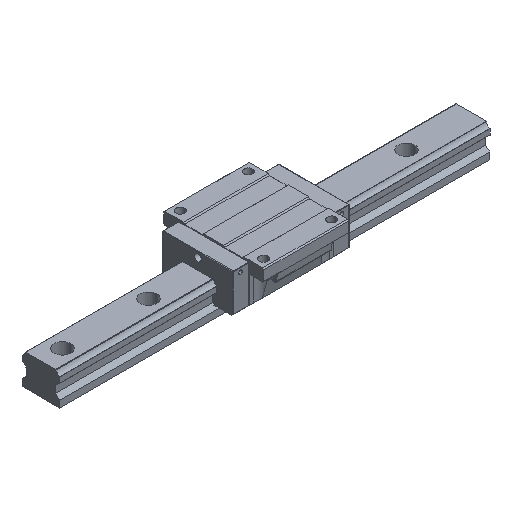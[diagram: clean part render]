
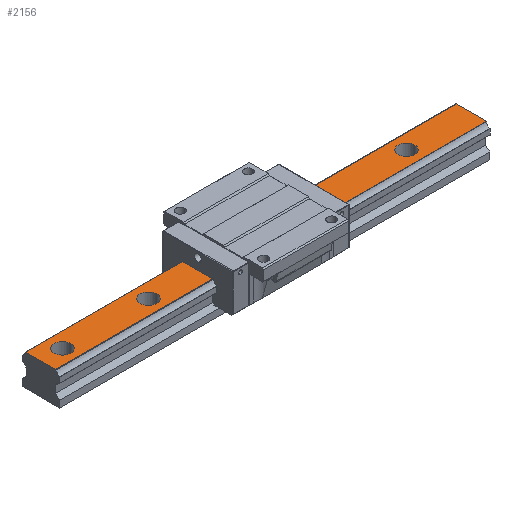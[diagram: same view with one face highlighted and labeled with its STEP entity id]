
A CAD part, isometric view. The second image highlights one B-rep face of the part: STEP entity #2156.
In plain terms, the highlighted planar face has unit normal (0, 0, 1).
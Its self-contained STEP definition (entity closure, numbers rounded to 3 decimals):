
#8 = VERTEX_POINT ( 'NONE', #4082 ) ;
#132 = DIRECTION ( 'NONE',  ( -1., 0., 0. ) ) ;
#147 = CARTESIAN_POINT ( 'NONE',  ( -258.5, 0., 44. ) ) ;
#164 = VERTEX_POINT ( 'NONE', #620 ) ;
#203 = VECTOR ( 'NONE', #913, 1000. ) ;
#219 = EDGE_CURVE ( 'NONE', #5705, #331, #1159, .T. ) ;
#279 = DIRECTION ( 'NONE',  ( -1., 0., 0. ) ) ;
#318 = LINE ( 'NONE', #2768, #5905 ) ;
#324 = EDGE_CURVE ( 'NONE', #6155, #164, #1682, .T. ) ;
#331 = VERTEX_POINT ( 'NONE', #2344 ) ;
#397 = VECTOR ( 'NONE', #279, 1000. ) ;
#439 = VERTEX_POINT ( 'NONE', #4503 ) ;
#620 = CARTESIAN_POINT ( 'NONE',  ( 78.5, 0., 44. ) ) ;
#624 = EDGE_LOOP ( 'NONE', ( #1883, #2670 ) ) ;
#697 = EDGE_LOOP ( 'NONE', ( #1060, #2628, #2561, #4653 ) ) ;
#710 = CARTESIAN_POINT ( 'NONE',  ( 210., 0., 44. ) ) ;
#713 = EDGE_CURVE ( 'NONE', #1267, #3775, #2111, .T. ) ;
#724 = EDGE_CURVE ( 'NONE', #331, #3775, #318, .T. ) ;
#744 = CARTESIAN_POINT ( 'NONE',  ( 300., -20.932, 44. ) ) ;
#880 = CARTESIAN_POINT ( 'NONE',  ( 300., -20.932, 44. ) ) ;
#910 = DIRECTION ( 'NONE',  ( 1., 0., 0. ) ) ;
#913 = DIRECTION ( 'NONE',  ( 0., -1., 0. ) ) ;
#922 = ORIENTED_EDGE ( 'NONE', *, *, #4648, .F. ) ;
#975 = EDGE_CURVE ( 'NONE', #439, #2791, #2948, .T. ) ;
#1030 = AXIS2_PLACEMENT_3D ( 'NONE', #6383, #5426, #910 ) ;
#1060 = ORIENTED_EDGE ( 'NONE', *, *, #724, .T. ) ;
#1146 = DIRECTION ( 'NONE',  ( 0., 0., 1. ) ) ;
#1159 = LINE ( 'NONE', #4683, #2848 ) ;
#1267 = VERTEX_POINT ( 'NONE', #3921 ) ;
#1306 = DIRECTION ( 'NONE',  ( 0., 0., 1. ) ) ;
#1349 = CARTESIAN_POINT ( 'NONE',  ( -281.5, 0., 44. ) ) ;
#1557 = CIRCLE ( 'NONE', #1980, 11.5 ) ;
#1579 = AXIS2_PLACEMENT_3D ( 'NONE', #1717, #2210, #3736 ) ;
#1677 = DIRECTION ( 'NONE',  ( 1., 0., 0. ) ) ;
#1682 = CIRCLE ( 'NONE', #5389, 11.5 ) ;
#1683 = CARTESIAN_POINT ( 'NONE',  ( -270., 0., 44. ) ) ;
#1717 = CARTESIAN_POINT ( 'NONE',  ( 90., 0., 44. ) ) ;
#1811 = CARTESIAN_POINT ( 'NONE',  ( 90., 0., 44. ) ) ;
#1820 = EDGE_CURVE ( 'NONE', #2791, #439, #3087, .T. ) ;
#1843 = FACE_BOUND ( 'NONE', #3569, .T. ) ;
#1883 = ORIENTED_EDGE ( 'NONE', *, *, #324, .F. ) ;
#1980 = AXIS2_PLACEMENT_3D ( 'NONE', #710, #2740, #2910 ) ;
#2111 = LINE ( 'NONE', #744, #397 ) ;
#2156 = ADVANCED_FACE ( 'NONE', ( #5427, #2341, #6384, #1843, #3867, #5890 ), #3370, .F. ) ;
#2198 = DIRECTION ( 'NONE',  ( 1., 0., 0. ) ) ;
#2208 = DIRECTION ( 'NONE',  ( 0., 0., 1. ) ) ;
#2210 = DIRECTION ( 'NONE',  ( 0., 0., 1. ) ) ;
#2255 = CARTESIAN_POINT ( 'NONE',  ( -150., 0., 44. ) ) ;
#2301 = DIRECTION ( 'NONE',  ( 0., -1., 0. ) ) ;
#2341 = FACE_BOUND ( 'NONE', #624, .T. ) ;
#2344 = CARTESIAN_POINT ( 'NONE',  ( -300., 20.932, 44. ) ) ;
#2384 = EDGE_CURVE ( 'NONE', #3828, #8, #2869, .T. ) ;
#2385 = AXIS2_PLACEMENT_3D ( 'NONE', #880, #2408, #4432 ) ;
#2408 = DIRECTION ( 'NONE',  ( 0., 0., -1. ) ) ;
#2561 = ORIENTED_EDGE ( 'NONE', *, *, #5914, .F. ) ;
#2575 = ORIENTED_EDGE ( 'NONE', *, *, #4609, .F. ) ;
#2628 = ORIENTED_EDGE ( 'NONE', *, *, #713, .F. ) ;
#2670 = ORIENTED_EDGE ( 'NONE', *, *, #5716, .F. ) ;
#2720 = EDGE_LOOP ( 'NONE', ( #922, #2575 ) ) ;
#2733 = CARTESIAN_POINT ( 'NONE',  ( -30., 0., 44. ) ) ;
#2740 = DIRECTION ( 'NONE',  ( 0., 0., 1. ) ) ;
#2768 = CARTESIAN_POINT ( 'NONE',  ( -300., -20.932, 44. ) ) ;
#2791 = VERTEX_POINT ( 'NONE', #4189 ) ;
#2848 = VECTOR ( 'NONE', #132, 1000. ) ;
#2869 = CIRCLE ( 'NONE', #3392, 11.5 ) ;
#2910 = DIRECTION ( 'NONE',  ( 1., 0., 0. ) ) ;
#2939 = AXIS2_PLACEMENT_3D ( 'NONE', #1683, #2208, #3763 ) ;
#2948 = CIRCLE ( 'NONE', #5068, 11.5 ) ;
#2974 = DIRECTION ( 'NONE',  ( 0., 0., 1. ) ) ;
#3087 = CIRCLE ( 'NONE', #3926, 11.5 ) ;
#3277 = ORIENTED_EDGE ( 'NONE', *, *, #975, .F. ) ;
#3358 = CIRCLE ( 'NONE', #1030, 11.5 ) ;
#3370 = PLANE ( 'NONE',  #2385 ) ;
#3392 = AXIS2_PLACEMENT_3D ( 'NONE', #2733, #1146, #1677 ) ;
#3405 = CIRCLE ( 'NONE', #4365, 11.5 ) ;
#3513 = CIRCLE ( 'NONE', #6262, 11.5 ) ;
#3569 = EDGE_LOOP ( 'NONE', ( #3277, #3915 ) ) ;
#3736 = DIRECTION ( 'NONE',  ( 1., 0., 0. ) ) ;
#3763 = DIRECTION ( 'NONE',  ( 1., 0., 0. ) ) ;
#3775 = VERTEX_POINT ( 'NONE', #5886 ) ;
#3828 = VERTEX_POINT ( 'NONE', #6507 ) ;
#3856 = EDGE_LOOP ( 'NONE', ( #6494, #6079 ) ) ;
#3867 = FACE_BOUND ( 'NONE', #3856, .T. ) ;
#3915 = ORIENTED_EDGE ( 'NONE', *, *, #1820, .F. ) ;
#3921 = CARTESIAN_POINT ( 'NONE',  ( 300., -20.932, 44. ) ) ;
#3926 = AXIS2_PLACEMENT_3D ( 'NONE', #2255, #5283, #5465 ) ;
#3971 = EDGE_CURVE ( 'NONE', #8, #3828, #3513, .T. ) ;
#3998 = CARTESIAN_POINT ( 'NONE',  ( -150., 0., 44. ) ) ;
#4040 = EDGE_CURVE ( 'NONE', #4943, #4625, #3405, .T. ) ;
#4061 = VERTEX_POINT ( 'NONE', #5809 ) ;
#4082 = CARTESIAN_POINT ( 'NONE',  ( -41.5, 0., 44. ) ) ;
#4189 = CARTESIAN_POINT ( 'NONE',  ( -161.5, 0., 44. ) ) ;
#4365 = AXIS2_PLACEMENT_3D ( 'NONE', #6337, #1306, #4951 ) ;
#4432 = DIRECTION ( 'NONE',  ( 0., 1., 0. ) ) ;
#4503 = CARTESIAN_POINT ( 'NONE',  ( -138.5, 0., 44. ) ) ;
#4527 = CARTESIAN_POINT ( 'NONE',  ( 198.5, 0., 44. ) ) ;
#4532 = DIRECTION ( 'NONE',  ( 1., 0., 0. ) ) ;
#4533 = EDGE_CURVE ( 'NONE', #4625, #4943, #5689, .T. ) ;
#4557 = CIRCLE ( 'NONE', #1579, 11.5 ) ;
#4609 = EDGE_CURVE ( 'NONE', #6460, #4061, #1557, .T. ) ;
#4625 = VERTEX_POINT ( 'NONE', #1349 ) ;
#4648 = EDGE_CURVE ( 'NONE', #4061, #6460, #3358, .T. ) ;
#4653 = ORIENTED_EDGE ( 'NONE', *, *, #219, .T. ) ;
#4683 = CARTESIAN_POINT ( 'NONE',  ( 300., 20.932, 44. ) ) ;
#4871 = DIRECTION ( 'NONE',  ( 0., 0., 1. ) ) ;
#4943 = VERTEX_POINT ( 'NONE', #147 ) ;
#4951 = DIRECTION ( 'NONE',  ( 1., 0., 0. ) ) ;
#5068 = AXIS2_PLACEMENT_3D ( 'NONE', #3998, #2974, #4532 ) ;
#5240 = CARTESIAN_POINT ( 'NONE',  ( 300., 20.932, 44. ) ) ;
#5283 = DIRECTION ( 'NONE',  ( 0., 0., 1. ) ) ;
#5315 = EDGE_LOOP ( 'NONE', ( #5396, #5973 ) ) ;
#5361 = LINE ( 'NONE', #5461, #203 ) ;
#5389 = AXIS2_PLACEMENT_3D ( 'NONE', #1811, #4871, #6387 ) ;
#5396 = ORIENTED_EDGE ( 'NONE', *, *, #2384, .F. ) ;
#5426 = DIRECTION ( 'NONE',  ( 0., 0., 1. ) ) ;
#5427 = FACE_BOUND ( 'NONE', #2720, .T. ) ;
#5461 = CARTESIAN_POINT ( 'NONE',  ( 300., -20.932, 44. ) ) ;
#5465 = DIRECTION ( 'NONE',  ( 1., 0., 0. ) ) ;
#5655 = DIRECTION ( 'NONE',  ( 0., 0., 1. ) ) ;
#5686 = CARTESIAN_POINT ( 'NONE',  ( -30., 0., 44. ) ) ;
#5689 = CIRCLE ( 'NONE', #2939, 11.5 ) ;
#5705 = VERTEX_POINT ( 'NONE', #5240 ) ;
#5716 = EDGE_CURVE ( 'NONE', #164, #6155, #4557, .T. ) ;
#5809 = CARTESIAN_POINT ( 'NONE',  ( 221.5, 0., 44. ) ) ;
#5886 = CARTESIAN_POINT ( 'NONE',  ( -300., -20.932, 44. ) ) ;
#5890 = FACE_OUTER_BOUND ( 'NONE', #697, .T. ) ;
#5905 = VECTOR ( 'NONE', #2301, 1000. ) ;
#5914 = EDGE_CURVE ( 'NONE', #5705, #1267, #5361, .T. ) ;
#5973 = ORIENTED_EDGE ( 'NONE', *, *, #3971, .F. ) ;
#6079 = ORIENTED_EDGE ( 'NONE', *, *, #4533, .F. ) ;
#6155 = VERTEX_POINT ( 'NONE', #6250 ) ;
#6250 = CARTESIAN_POINT ( 'NONE',  ( 101.5, 0., 44. ) ) ;
#6262 = AXIS2_PLACEMENT_3D ( 'NONE', #5686, #5655, #2198 ) ;
#6337 = CARTESIAN_POINT ( 'NONE',  ( -270., 0., 44. ) ) ;
#6383 = CARTESIAN_POINT ( 'NONE',  ( 210., 0., 44. ) ) ;
#6384 = FACE_BOUND ( 'NONE', #5315, .T. ) ;
#6387 = DIRECTION ( 'NONE',  ( 1., 0., 0. ) ) ;
#6460 = VERTEX_POINT ( 'NONE', #4527 ) ;
#6494 = ORIENTED_EDGE ( 'NONE', *, *, #4040, .F. ) ;
#6507 = CARTESIAN_POINT ( 'NONE',  ( -18.5, 0., 44. ) ) ;
